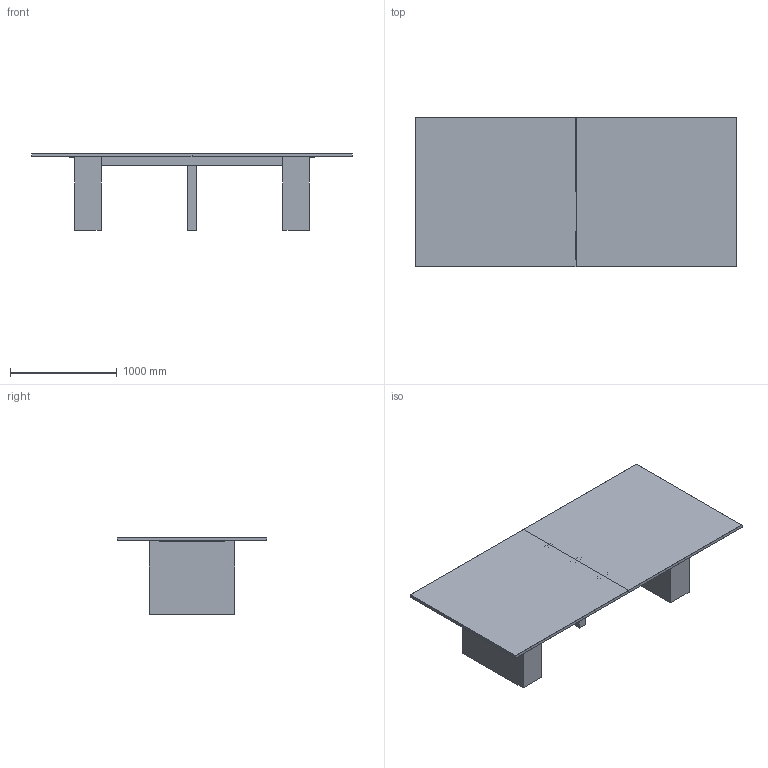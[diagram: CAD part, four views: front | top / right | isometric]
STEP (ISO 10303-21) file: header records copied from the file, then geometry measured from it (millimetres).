
FILE_DESCRIPTION(/* description */ (''),/* implementation_level */ '2;1');
FILE_NAME(/* name */ 'kinoshita_abord_at006-3000-1400',/* time_stamp */ '2025-08-26T11:30:12+09:00',/* author */ (''),/* organization */ (''),/* preprocessor_version */ 'ST-DEVELOPER v16.5',/* originating_system */ '',/* authorisation */ '');
FILE_SCHEMA (('AUTOMOTIVE_DESIGN'));
Length unit declared in the file: millimetre
Products named in the file (1): Document
Bounding box: 3000 x 1400 x 720 mm (x, y, z)
Volume: 423516363.9 mm3; surface area: 14273355.6 mm2
Topology: 32 solids, 32 shells, 496 faces, 1204 edges, 752 vertices
Faces by surface type: bspline 298, plane 198
Entity records: 18178 total; most frequent: CARTESIAN_POINT 10964, ORIENTED_EDGE 2344, EDGE_CURVE 1172, VERTEX_POINT 752, B_SPLINE_CURVE_WITH_KNOTS 592, EDGE_LOOP 564, ADVANCED_FACE 496, FACE_OUTER_BOUND 496
